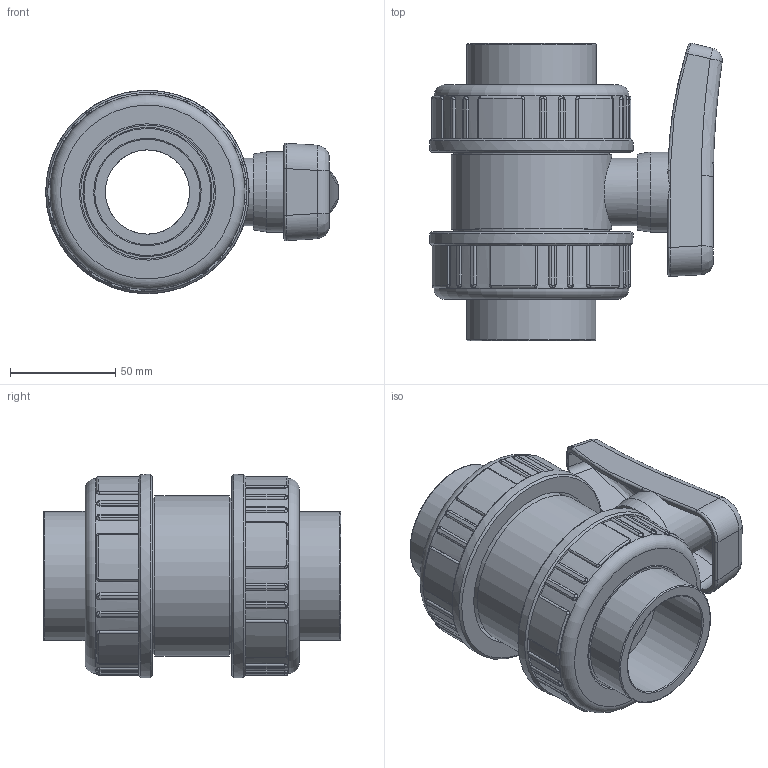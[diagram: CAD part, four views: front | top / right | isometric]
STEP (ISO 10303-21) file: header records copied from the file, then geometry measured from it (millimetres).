
FILE_DESCRIPTION(/* description */ (''),/* implementation_level */ '2;1');
FILE_NAME(/* name */ 'C:\Users\POLYPIPE\Desktop\DATASET INVENTOR\LIBRERIA EFFAST\3D_VALVOLE\3D_VALVOLE A SFERA\3D_BV\3D_BDRBVD\3D_BDRBVD0500.stp',/* time_stamp */ '2018-01-23T15:56:37+01:00',/* author */ ('POLYPIPE'),/* organization */ (''),/* preprocessor_version */ 'ST-DEVELOPER v16.1',/* originating_system */ 'Autodesk Inventor 2016',/* authorisation */ '');
FILE_SCHEMA (('CONFIG_CONTROL_DESIGN'));
Length unit declared in the file: centimetre
Products named in the file (1): 3D_BDRBVD0500
Bounding box: 138.79 x 141.16 x 96.49 mm (x, y, z)
Volume: 531115.6 mm3; surface area: 128863.5 mm2
Topology: 2 solids, 3 shells, 515 faces, 1243 edges, 750 vertices
Faces by surface type: plane 169, cylinder 160, bspline 158, torus 19, cone 5, sphere 4
Full cylindrical faces by diameter (mm): 19.8 x1, 32 x1, 38 x1, 40 x2, 50 x2, 61.3 x2, 63.4 x2, 64.7 x2, 71.9 x2, 73.7 x2, 76 x1, 78.5 x2, 92.5 x2, 96.5 x2
Entity records: 59052 total; most frequent: CARTESIAN_POINT 47315, ORIENTED_EDGE 2402, DIRECTION 2143, EDGE_CURVE 1199, AXIS2_PLACEMENT_3D 827, VERTEX_POINT 742, EDGE_LOOP 573, STYLED_ITEM 517
